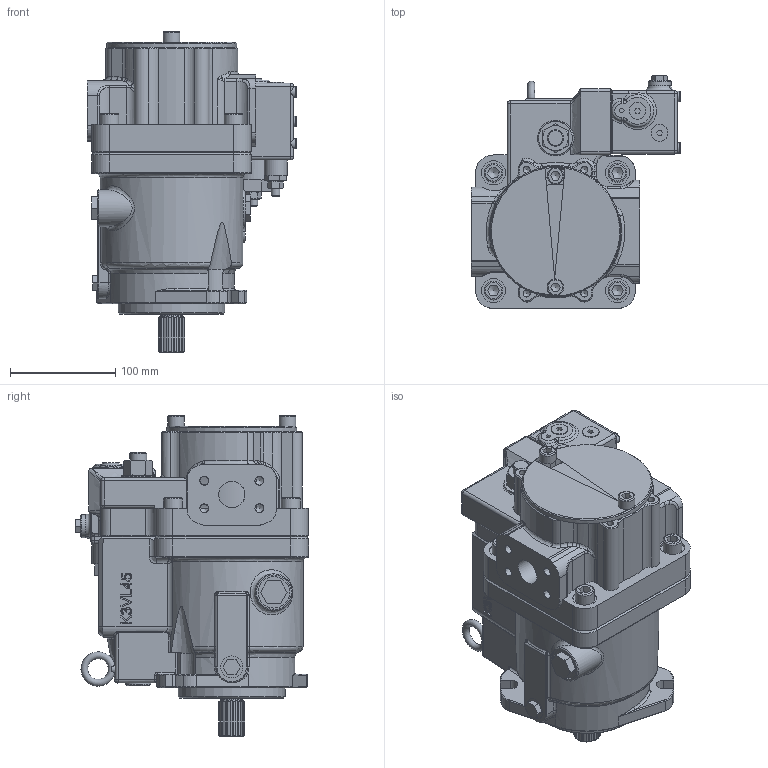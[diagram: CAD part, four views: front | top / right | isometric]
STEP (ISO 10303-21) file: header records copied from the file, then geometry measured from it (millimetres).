
FILE_DESCRIPTION((''),'2;1');
FILE_NAME('J:\Inventor\K3V, M2X\MODEL LIBRARY\K3VL60B 1NLSM LO.stp','2008-05-21T11:47:47',('mnorman'),(''),'Autodesk Inventor 2008','Autodesk Inventor 2008','');
FILE_SCHEMA(('AUTOMOTIVE_DESIGN { 1 0 10303 214 1 1 1 1 }'));
Length unit declared in the file: millimetre
Products named in the file (1): Part7
Bounding box: 199 x 221.7 x 305 mm (x, y, z)
Volume: 4898750.2 mm3; surface area: 340733.2 mm2
Topology: 1 solids, 20 shells, 1174 faces, 2851 edges, 1753 vertices
Faces by surface type: plane 493, cylinder 270, bspline 242, cone 122, torus 38, sphere 9
Full cylindrical faces by diameter (mm): 6 x4, 6.5 x4, 8 x5, 10 x4, 11 x4, 12 x4, 16 x6, 18 x4, 21 x1, 21.3 x1, 22 x2, 24 x1, 25 x1, 30 x4, 32 x1, 35.5 x1, 36 x1, 38 x1, 46 x1, 75 x1, 82.55 x1, 90 x2, 101.6 x1, 105 x1, 124 x1
Entity records: 47365 total; most frequent: CARTESIAN_POINT 21490, ORIENTED_EDGE 5158, DIRECTION 4851, EDGE_CURVE 2579, AXIS2_PLACEMENT_3D 1834, VERTEX_POINT 1665, EDGE_LOOP 1408, VECTOR 1183
